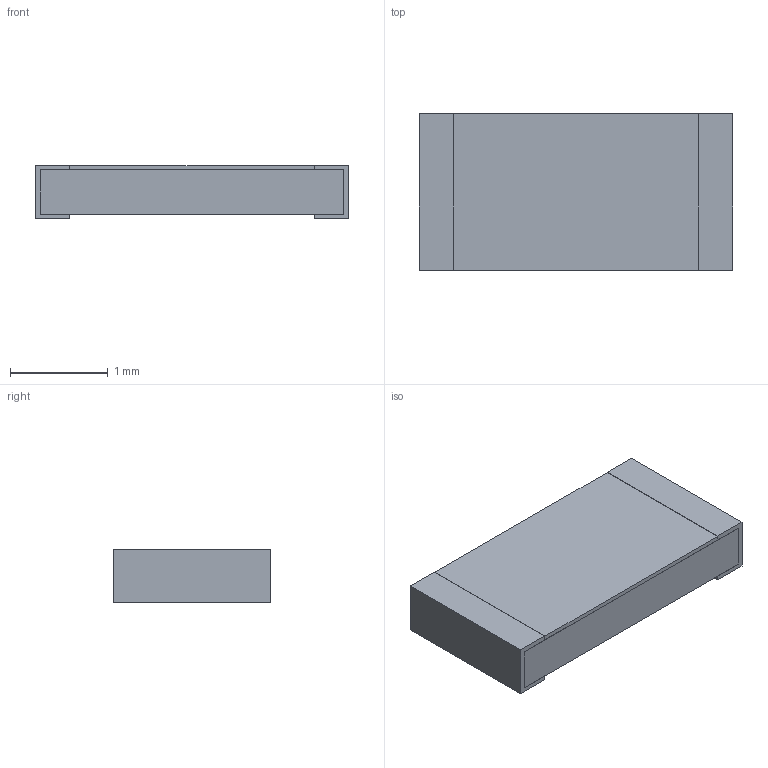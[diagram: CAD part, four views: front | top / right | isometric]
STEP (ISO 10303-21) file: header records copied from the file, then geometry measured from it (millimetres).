
FILE_DESCRIPTION(('STEP AP203'), '1');
FILE_NAME('Ð1-8 1206 ', '', ('UNSPECIFIED'), ('UNSPECIFIED'), 'ASCON STEP Converter 1.6', 'ASCON Math Kernel', '');
FILE_SCHEMA(('CONFIG_CONTROL_DESIGN'));
Length unit declared in the file: millimetre
Bounding box: 3.2 x 1.6 x 0.55 mm (x, y, z)
Volume: 2.6 mm3; surface area: 30.8 mm2
Topology: 4 solids, 5 shells, 51 faces, 123 edges, 82 vertices
Faces by surface type: plane 47, cylinder 4
Entity records: 1937 total; most frequent: CARTESIAN_POINT 257, ORIENTED_EDGE 246, DIRECTION 235, EDGE_CURVE 123, LINE 115, VECTOR 115, VERTEX_POINT 82, AXIS2_PLACEMENT_3D 60
